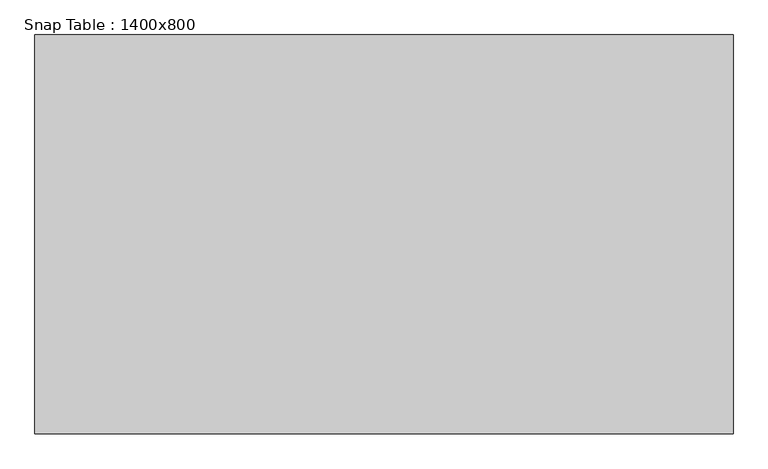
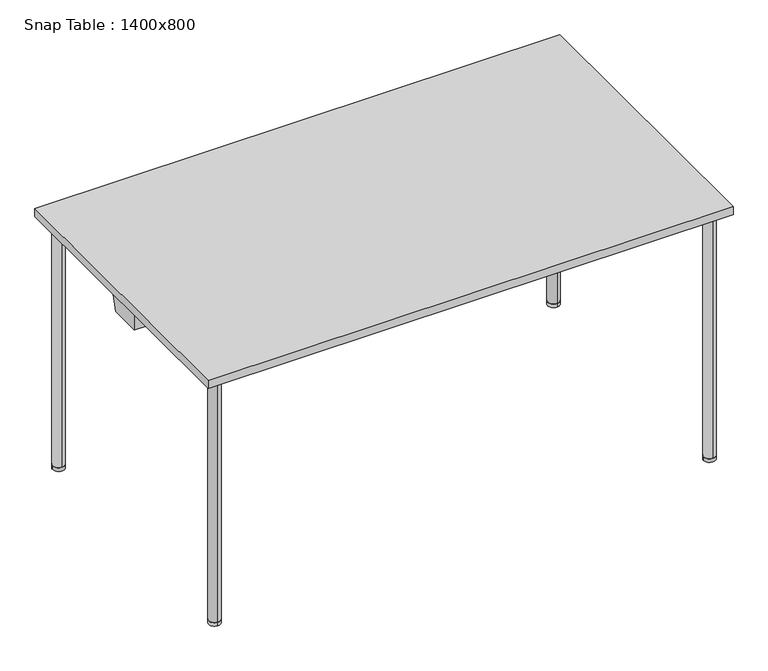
"""IFC4 building model written with IfcOpenShell, lengths in millimetres: furniture geometry, Snap Table : 1400x800."""

from ifc_helpers import new_model, si_unit, point, frame, frame_2d, origin, origin_with_axes, place, context, project, spatial, polyline, circle_curve, ellipse_curve, trimmed, segment, composite_curve, outline, extrude, faceted_brep, source, transform, mapped, element, save
from ifc_brep_helpers import plane_surface, cylinder_surface, revolved_surface, advanced_brep


def snap_table_1400x800_de1adabc(model_context):
    return source(origin(), model_context, "Body", "SolidModel", [
        extrude(outline(composite_curve([segment(trimmed(circle_curve(frame_2d((660.0, -360.0)), 16.0), [point((676.0, -360.0))], [point((644.0, -360.0))], False, "CARTESIAN"), True, "CONTINUOUS"), segment(trimmed(circle_curve(frame_2d((660.0, -360.0)), 16.0), [point((644.0, -360.0))], [point((676.0, -360.0))], False, "CARTESIAN"), True, "CONTINUOUS")], self_intersect=False)), origin_with_axes(), (0.0, 0.0, 1.0), 10.0),
        extrude(outline(composite_curve([segment(trimmed(circle_curve(frame_2d((660.0, 360.0)), 16.0), [point((660.0, 344.0))], [point((660.0, 376.0))], False, "CARTESIAN"), True, "CONTINUOUS"), segment(trimmed(circle_curve(frame_2d((660.0, 360.0)), 16.0), [point((660.0, 376.0))], [point((660.0, 344.0))], False, "CARTESIAN"), True, "CONTINUOUS")], self_intersect=False)), origin_with_axes(), (0.0, 0.0, 1.0), 10.0),
        advanced_brep(
        [(660.0, -376.0, 10.0), (660.0, -344.0, 10.0), (660.0, -376.0, 689.0), (660.0, -344.0, 657.0), (660.0, 376.0, 689.0), (660.0, 344.0, 657.0), (660.0, 376.0, 10.0), (660.0, 344.0, 10.0)],
        [
            (0, 1, circle_curve(frame((660.0, -360.0, 10.0), z_axis=(0.0, 0.0, -1.0), x_axis=(0.0, 1.0, 0.0)), 16.0)),
            (1, 0, circle_curve(frame((660.0, -360.0, 10.0), z_axis=(0.0, 0.0, -1.0), x_axis=(0.0, 1.0, 0.0)), 16.0)),
            (0, 2),
            (2, 3, ellipse_curve(frame((660.0, -360.0, 673.0), z_axis=(0.0, -0.7071067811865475, -0.7071067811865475), x_axis=(0.0, 0.7071067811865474, -0.7071067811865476)), 22.627417, 16.0)),
            (3, 1),
            (3, 2, ellipse_curve(frame((660.0, -360.0, 673.0), z_axis=(0.0, -0.7071067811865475, -0.7071067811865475), x_axis=(0.0, 0.7071067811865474, -0.7071067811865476)), 22.627417, 16.0)),
            (2, 4),
            (4, 5, ellipse_curve(frame((660.0, 360.0, 673.0), z_axis=(0.0, -0.7071067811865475, 0.7071067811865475), x_axis=(0.0, -0.7071067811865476, -0.7071067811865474)), 22.627417, 16.0)),
            (5, 3),
            (5, 4, ellipse_curve(frame((660.0, 360.0, 673.0), z_axis=(0.0, -0.7071067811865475, 0.7071067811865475), x_axis=(0.0, -0.7071067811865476, -0.7071067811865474)), 22.627417, 16.0)),
            (6, 7, circle_curve(frame((660.0, 360.0, 10.0), z_axis=(0.0, 0.0, -1.0), x_axis=(0.0, -1.0, 0.0)), 16.0)),
            (7, 6, circle_curve(frame((660.0, 360.0, 10.0), z_axis=(0.0, 0.0, -1.0), x_axis=(0.0, -1.0, 0.0)), 16.0)),
            (4, 6),
            (7, 5),
        ],
        [
            plane_surface(frame((660.0, -360.0, 10.0), z_axis=(0.0, 0.0, -1.0), x_axis=(-1.0, 0.0, 0.0))),
            cylinder_surface(frame((660.0, -360.0, 10.0), z_axis=(0.0, 0.0, -1.0), x_axis=(0.0, 1.0, 0.0)), 16.0),
            cylinder_surface(frame((660.0, -360.0, 673.0), z_axis=(0.0, -1.0, 0.0), x_axis=(0.0, 0.0, -1.0)), 16.0),
            plane_surface(frame((660.0, 360.0, 10.0), z_axis=(0.0, 0.0, -1.0), x_axis=(-1.0, 0.0, 0.0))),
            cylinder_surface(frame((660.0, 360.0, 673.0), z_axis=(0.0, 0.0, 1.0), x_axis=(0.0, -1.0, 0.0)), 16.0),
        ],
        [
            (0, [[1, 2]]),
            (1, [[-1, 3, 4, 5]]),
            (1, [[-2, -5, 6, -3]]),
            (2, [[-4, 7, 8, 9]]),
            (2, [[-6, -9, 10, -7]]),
            (3, [[11, 12]]),
            (4, [[-8, 13, -12, 14]]),
            (4, [[-10, -14, -11, -13]]),
        ],
    ),
        extrude(outline(composite_curve([segment(trimmed(circle_curve(frame_2d((-660.0470276, 360.0)), 16.0), [point((-676.0470276, 360.0))], [point((-644.0470276, 360.0))], False, "CARTESIAN"), True, "CONTINUOUS"), segment(trimmed(circle_curve(frame_2d((-660.0470276, 360.0)), 16.0), [point((-644.0470276, 360.0))], [point((-676.0470276, 360.0))], False, "CARTESIAN"), True, "CONTINUOUS")], self_intersect=False)), origin_with_axes(), (0.0, 0.0, 1.0), 10.0),
        extrude(outline(composite_curve([segment(trimmed(circle_curve(frame_2d((-660.0470276, -360.0)), 16.0), [point((-660.0470276, -344.0))], [point((-660.0470276, -376.0))], False, "CARTESIAN"), True, "CONTINUOUS"), segment(trimmed(circle_curve(frame_2d((-660.0470276, -360.0)), 16.0), [point((-660.0470276, -376.0))], [point((-660.0470276, -344.0))], False, "CARTESIAN"), True, "CONTINUOUS")], self_intersect=False)), origin_with_axes(), (0.0, 0.0, 1.0), 10.0),
        advanced_brep(
        [(-660.0470276, 376.0, 10.0), (-660.0470276, 344.0, 10.0), (-660.0470276, 376.0, 689.0), (-660.0470276, 344.0, 657.0), (-660.0470276, -376.0, 689.0), (-660.0470276, -344.0, 657.0), (-660.0470276, -376.0, 10.0), (-660.0470276, -344.0, 10.0)],
        [
            (0, 1, circle_curve(frame((-660.0470276, 360.0, 10.0), z_axis=(0.0, 0.0, -1.0), x_axis=(0.0, -1.0, 0.0)), 16.0)),
            (1, 0, circle_curve(frame((-660.0470276, 360.0, 10.0), z_axis=(0.0, 0.0, -1.0), x_axis=(0.0, -1.0, 0.0)), 16.0)),
            (0, 2),
            (2, 3, ellipse_curve(frame((-660.0470276, 360.0, 673.0), z_axis=(0.0, 0.7071067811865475, -0.7071067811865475), x_axis=(0.0, -0.7071067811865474, -0.7071067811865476)), 22.627417, 16.0)),
            (3, 1),
            (3, 2, ellipse_curve(frame((-660.0470276, 360.0, 673.0), z_axis=(0.0, 0.7071067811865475, -0.7071067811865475), x_axis=(0.0, -0.7071067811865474, -0.7071067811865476)), 22.627417, 16.0)),
            (2, 4),
            (4, 5, ellipse_curve(frame((-660.0470276, -360.0, 673.0), z_axis=(0.0, 0.7071067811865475, 0.7071067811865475), x_axis=(0.0, 0.7071067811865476, -0.7071067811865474)), 22.627417, 16.0)),
            (5, 3),
            (5, 4, ellipse_curve(frame((-660.0470276, -360.0, 673.0), z_axis=(0.0, 0.7071067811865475, 0.7071067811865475), x_axis=(0.0, 0.7071067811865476, -0.7071067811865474)), 22.627417, 16.0)),
            (6, 7, circle_curve(frame((-660.0470276, -360.0, 10.0), z_axis=(0.0, 0.0, -1.0), x_axis=(0.0, 1.0, 0.0)), 16.0)),
            (7, 6, circle_curve(frame((-660.0470276, -360.0, 10.0), z_axis=(0.0, 0.0, -1.0), x_axis=(0.0, 1.0, 0.0)), 16.0)),
            (4, 6),
            (7, 5),
        ],
        [
            plane_surface(frame((-660.0470276, 360.0, 10.0), z_axis=(0.0, 0.0, -1.0), x_axis=(1.0, 0.0, 0.0))),
            cylinder_surface(frame((-660.0470276, 360.0, 10.0), z_axis=(0.0, 0.0, -1.0), x_axis=(0.0, -1.0, 0.0)), 16.0),
            cylinder_surface(frame((-660.0470276, 360.0, 673.0), z_axis=(0.0, 1.0, 0.0), x_axis=(0.0, 0.0, -1.0)), 16.0),
            plane_surface(frame((-660.0470276, -360.0, 10.0), z_axis=(0.0, 0.0, -1.0), x_axis=(1.0, 0.0, 0.0))),
            cylinder_surface(frame((-660.0470276, -360.0, 673.0), z_axis=(0.0, 0.0, 1.0), x_axis=(0.0, 1.0, 0.0)), 16.0),
        ],
        [
            (0, [[1, 2]]),
            (1, [[-1, 3, 4, 5]]),
            (1, [[-2, -5, 6, -3]]),
            (2, [[-4, 7, 8, 9]]),
            (2, [[-6, -9, 10, -7]]),
            (3, [[11, 12]]),
            (4, [[-8, 13, -12, 14]]),
            (4, [[-10, -14, -11, -13]]),
        ],
    ),
        extrude(outline(polyline([(700.0, 400.0), (700.0, -400.0), (-700.0, -400.0), (-700.0, 400.0), (700.0, 400.0)])), frame((0.0, 0.0, 698.0), z_axis=(0.0, 0.0, 1.0), x_axis=(1.0, 0.0, 0.0)), (0.0, 0.0, 1.0), 22.0),
        advanced_brep(
        [(-690.8110657, 42.2236058, 643.0), (-657.6910354, 44.5767873, 643.0), (-640.5708933, 36.0824003, 643.0), (640.5710292, 36.0824678, 643.0), (657.6910354, 44.5767873, 643.0), (690.8110657, 42.2236058, 643.0), (690.8110657, -42.2236058, 643.0), (657.6044607, -44.2417031, 643.0), (640.4018781, -36.0497649, 643.0), (-640.4020196, -36.0498323, 643.0), (-657.6044607, -44.2417031, 643.0), (-690.8110657, -42.2236058, 643.0), (-694.8110657, 48.9570516, 698.0), (-694.8110657, -48.9934252, 698.0), (-656.225892, -51.3383995, 698.0), (-634.6205129, -41.049832, 698.0), (634.6203726, -41.0497652, 698.0), (656.225892, -51.3383995, 698.0), (694.8110657, -48.9934252, 698.0), (694.8110657, 48.9570516, 698.0), (656.286594, 51.6942192, 698.0), (634.8989768, 41.0824675, 698.0), (-634.8988421, 41.0824006, 698.0), (-656.286594, 51.6942192, 698.0), (-657.2475737, -46.0789118, 657.2385232), (-676.0, -46.9489596, 673.0), (-656.4614069, -50.125999, 688.6037931), (-644.0, -41.9922101, 673.0), (657.2475737, -46.0789118, 657.2385232), (644.0, -41.9922101, 673.0), (656.4614069, -50.125999, 688.6037931), (676.0, -46.9489596, 673.0), (657.3278029, 46.4175782, 657.2247231), (676.0, 47.1037405, 673.0), (656.5261576, 50.4801582, 688.618336), (644.0, 42.0461233, 673.0), (-657.3278029, 46.4175782, 657.2247231), (-644.0, 42.0461233, 673.0), (-656.5261576, 50.4801582, 688.618336), (-676.0, 47.1037405, 673.0)],
        [
            (0, 1),
            (1, 2),
            (2, 3),
            (3, 4),
            (4, 5),
            (5, 6),
            (6, 7),
            (7, 8),
            (8, 9),
            (9, 10),
            (10, 11),
            (11, 0),
            (12, 13),
            (13, 14),
            (14, 15),
            (15, 16),
            (16, 17),
            (17, 18),
            (18, 19),
            (19, 20),
            (20, 21),
            (21, 22),
            (22, 23),
            (23, 12),
            (11, 13),
            (12, 0),
            (10, 24),
            (24, 25, ellipse_curve(frame((-660.0, -47.9213432, 673.0), z_axis=(0.060176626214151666, 0.9901710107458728, 0.12625427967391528), x_axis=(0.426028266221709, -0.13986196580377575, 0.8938336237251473)), 16.1588249, 16.0)),
            (25, 26, ellipse_curve(frame((-660.0, -47.9213432, 673.0), z_axis=(0.060176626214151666, 0.9901710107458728, 0.12625427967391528), x_axis=(0.426028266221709, -0.13986196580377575, 0.8938336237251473)), 16.1588249, 16.0)),
            (26, 14),
            (9, 15),
            (26, 27, ellipse_curve(frame((-660.0, -49.6114737, 673.0), z_axis=(-0.4265030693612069, 0.8956310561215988, 0.12625427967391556), x_axis=(-0.8587935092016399, -0.44479771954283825, 0.25422174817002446)), 17.8644989, 16.0)),
            (27, 24, ellipse_curve(frame((-660.0, -49.6114737, 673.0), z_axis=(-0.4265030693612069, 0.8956310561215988, 0.12625427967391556), x_axis=(-0.8587935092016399, -0.44479771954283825, 0.25422174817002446)), 17.8644989, 16.0)),
            (8, 16),
            (7, 28),
            (28, 29, ellipse_curve(frame((660.0, -49.6114737, 673.0), z_axis=(0.4265030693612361, 0.8956310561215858, 0.1262542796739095), x_axis=(0.8587935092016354, -0.4447977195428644, 0.25422174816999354)), 17.8644989, 16.0)),
            (29, 30, ellipse_curve(frame((660.0, -49.6114737, 673.0), z_axis=(0.4265030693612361, 0.8956310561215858, 0.1262542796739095), x_axis=(0.8587935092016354, -0.4447977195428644, 0.25422174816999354)), 17.8644989, 16.0)),
            (30, 17),
            (6, 18),
            (30, 31, ellipse_curve(frame((660.0, -47.9213432, 673.0), z_axis=(-0.06017662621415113, 0.9901710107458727, 0.12625427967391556), x_axis=(-0.426028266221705, -0.1398619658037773, 0.8938336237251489)), 16.1588249, 16.0)),
            (31, 28, ellipse_curve(frame((660.0, -47.9213432, 673.0), z_axis=(-0.06017662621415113, 0.9901710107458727, 0.12625427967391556), x_axis=(-0.426028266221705, -0.1398619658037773, 0.8938336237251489)), 16.1588249, 16.0)),
            (5, 19),
            (4, 32),
            (32, 33, ellipse_curve(frame((660.0, 48.2405422, 673.0), z_axis=(-0.0703043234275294, -0.9895034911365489, 0.12625427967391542), x_axis=(0.4813983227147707, -0.14450896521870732, -0.8645072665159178)), 16.1697257, 16.0)),
            (33, 34, ellipse_curve(frame((660.0, 48.2405422, 673.0), z_axis=(-0.0703043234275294, -0.9895034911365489, 0.12625427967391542), x_axis=(0.4813983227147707, -0.14450896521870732, -0.8645072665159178)), 16.1697257, 16.0)),
            (34, 20),
            (3, 21),
            (34, 35, ellipse_curve(frame((660.0, 49.9847369, 673.0), z_axis=(0.4409053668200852, -0.8886294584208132, 0.12625427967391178), x_axis=(-0.854294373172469, -0.45862586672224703, -0.24462918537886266)), 18.005255, 16.0)),
            (35, 32, ellipse_curve(frame((660.0, 49.9847369, 673.0), z_axis=(0.4409053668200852, -0.8886294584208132, 0.12625427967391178), x_axis=(-0.854294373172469, -0.45862586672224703, -0.24462918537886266)), 18.005255, 16.0)),
            (2, 22),
            (1, 36),
            (36, 37, ellipse_curve(frame((-660.0, 49.9847369, 673.0), z_axis=(-0.44090536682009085, -0.8886294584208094, 0.12625427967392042), x_axis=(0.8542943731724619, -0.45862586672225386, -0.24462918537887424)), 18.005255, 16.0)),
            (37, 38, ellipse_curve(frame((-660.0, 49.9847369, 673.0), z_axis=(-0.44090536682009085, -0.8886294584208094, 0.12625427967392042), x_axis=(0.8542943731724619, -0.45862586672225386, -0.24462918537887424)), 18.005255, 16.0)),
            (38, 23),
            (38, 39, ellipse_curve(frame((-660.0, 48.2405422, 673.0), z_axis=(0.07030432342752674, -0.9895034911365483, 0.12625427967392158), x_axis=(-0.48139832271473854, -0.14450896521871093, -0.8645072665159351)), 16.1697257, 16.0)),
            (39, 36, ellipse_curve(frame((-660.0, 48.2405422, 673.0), z_axis=(0.07030432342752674, -0.9895034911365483, 0.12625427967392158), x_axis=(-0.48139832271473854, -0.14450896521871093, -0.8645072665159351)), 16.1697257, 16.0)),
            (35, 29),
            (31, 33),
            (39, 25),
            (27, 37),
        ],
        [
            plane_surface(frame((-5e-07, 0.0612866, 643.0), z_axis=(0.0, 0.0, -1.0), x_axis=(0.0, -1.0, 0.0))),
            plane_surface(frame((-5e-07, 0.0586803, 698.0), z_axis=(0.0, 0.0, 1.0), x_axis=(0.0, -1.0, 0.0))),
            plane_surface(frame((-694.8110657, -0.0181868, 698.0), z_axis=(-0.9973658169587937, 0.0, -0.07253569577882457), x_axis=(0.0, 1.0, 0.0))),
            plane_surface(frame((-675.5184789, -50.1659123, 698.0), z_axis=(-0.060176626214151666, -0.9901710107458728, -0.12625427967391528), x_axis=(-0.9981583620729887, 0.06066204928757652, 0.0))),
            plane_surface(frame((-645.4232025, -46.1941158, 698.0), z_axis=(0.4265030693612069, -0.8956310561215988, -0.12625427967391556), x_axis=(-0.9028557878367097, -0.4299435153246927, 0.0))),
            plane_surface(frame((-7.01e-05, -41.0497986, 698.0), z_axis=(5.2413477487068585e-08, -0.9958932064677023, -0.09053574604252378), x_axis=(-0.9999999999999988, -5.262961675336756e-08, 0.0))),
            plane_surface(frame((645.4231323, -46.1940824, 698.0), z_axis=(-0.4265030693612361, -0.8956310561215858, -0.1262542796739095), x_axis=(-0.9028557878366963, 0.42994351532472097, 0.0))),
            plane_surface(frame((675.5184789, -50.1659123, 698.0), z_axis=(0.060176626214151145, -0.9901710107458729, -0.1262542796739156), x_axis=(-0.9981583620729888, -0.060662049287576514, 0.0))),
            plane_surface(frame((694.8110657, -0.0181868, 698.0), z_axis=(0.997365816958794, 0.0, -0.07253569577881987), x_axis=(0.0, -1.0, 0.0))),
            plane_surface(frame((675.5488298, 50.3256354, 698.0), z_axis=(0.0703043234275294, 0.9895034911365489, -0.12625427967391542), x_axis=(0.9974854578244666, -0.07087144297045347, 0.0))),
            plane_surface(frame((645.5927854, 46.3883433, 698.0), z_axis=(-0.4409053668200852, 0.8886294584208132, -0.12625427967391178), x_axis=(0.8957977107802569, 0.44446199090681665, 0.0))),
            plane_surface(frame((6.73e-05, 41.082434, 698.0), z_axis=(-5.2413477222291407e-08, 0.9958932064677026, -0.09053574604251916), x_axis=(0.9999999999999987, 5.2629615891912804e-08, 0.0))),
            plane_surface(frame((-645.5927181, 46.3883099, 698.0), z_axis=(0.44090536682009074, 0.8886294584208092, -0.1262542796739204), x_axis=(0.8957977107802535, -0.4444619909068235, 0.0))),
            plane_surface(frame((-675.5488298, 50.3256354, 698.0), z_axis=(-0.07030432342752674, 0.9895034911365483, -0.12625427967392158), x_axis=(0.9974854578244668, 0.07087144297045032, 0.0))),
            revolved_surface(polyline([(676.0, -57.55756207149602, 673.0), (676.0, 58.242412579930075, 673.0)]), (660.0, 70.0, 673.0), (0.0, -1.0, 0.0)),
            revolved_surface(polyline([(-676.0, -57.55756207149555, 673.0), (-676.0, 58.242412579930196, 673.0)]), (-660.0, 70.0, 673.0), (0.0, -1.0, 0.0)),
        ],
        [
            (0, [[1, 2, 3, 4, 5, 6, 7, 8, 9, 10, 11, 12]]),
            (1, [[13, 14, 15, 16, 17, 18, 19, 20, 21, 22, 23, 24]]),
            (2, [[-12, 25, -13, 26]]),
            (3, [[-11, 27, 28, 29, 30, -14, -25]]),
            (4, [[-10, 31, -15, -30, 32, 33, -27]]),
            (5, [[-9, 34, -16, -31]]),
            (6, [[-8, 35, 36, 37, 38, -17, -34]]),
            (7, [[-7, 39, -18, -38, 40, 41, -35]]),
            (8, [[-6, 42, -19, -39]]),
            (9, [[-5, 43, 44, 45, 46, -20, -42]]),
            (10, [[-4, 47, -21, -46, 48, 49, -43]]),
            (11, [[-3, 50, -22, -47]]),
            (12, [[-2, 51, 52, 53, 54, -23, -50]]),
            (13, [[-1, -26, -24, -54, 55, 56, -51]]),
            (14, [[57, -36, -41, 58, -44, -49]]),
            (14, [[-57, -48, -45, -58, -40, -37]]),
            (15, [[59, -28, -33, 60, -52, -56]]),
            (15, [[-59, -55, -53, -60, -32, -29]]),
        ],
    ),
        faceted_brep([(630.1271057, 282.1409864, 643.0), (630.1271057, 327.0366315, 643.0), (641.3990784, 327.0366315, 643.0), (641.3990784, 282.1409864, 643.0), (626.2186584, 278.0138349, 688.0), (644.2631531, 278.0138349, 688.0), (644.2631531, 331.163783, 688.0), (626.2186584, 331.163783, 688.0)], [[[0, 1, 2, 3]], [[4, 5, 6, 7]], [[5, 4, 0, 3]], [[6, 5, 3, 2]], [[7, 6, 2, 1]], [[4, 7, 1, 0]]]),
        extrude(outline(polyline([(626.2186584, 331.163783), (677.86026, 331.163783), (677.86026, 278.0138349), (626.2186584, 278.0138349), (626.2186584, 331.163783)])), frame((0.0, 0.0, 688.0), z_axis=(0.0, 0.0, 1.0), x_axis=(1.0, 0.0, 0.0)), (0.0, 0.0, 1.0), 10.0),
        faceted_brep([(630.1271057, -282.1409864, 643.0), (641.3990784, -282.1409864, 643.0), (641.3990784, -327.0366315, 643.0), (630.1271057, -327.0366315, 643.0), (626.2186584, -278.0138349, 688.0), (626.2186584, -331.163783, 688.0), (644.2631531, -331.163783, 688.0), (644.2631531, -278.0138349, 688.0)], [[[0, 1, 2, 3]], [[4, 5, 6, 7]], [[4, 7, 1, 0]], [[7, 6, 2, 1]], [[6, 5, 3, 2]], [[5, 4, 0, 3]]]),
        extrude(outline(polyline([(626.2186584, -331.163783), (626.2186584, -278.0138349), (677.86026, -278.0138349), (677.86026, -331.163783), (626.2186584, -331.163783)])), frame((0.0, 0.0, 688.0), z_axis=(0.0, 0.0, 1.0), x_axis=(1.0, 0.0, 0.0)), (0.0, 0.0, 1.0), 10.0),
        faceted_brep([(-630.1271057, 282.1409864, 643.0), (-641.3990784, 282.1409864, 643.0), (-641.3990784, 327.0366315, 643.0), (-630.1271057, 327.0366315, 643.0), (-626.2186584, 278.0138349, 688.0), (-626.2186584, 331.163783, 688.0), (-644.2631531, 331.163783, 688.0), (-644.2631531, 278.0138349, 688.0)], [[[0, 1, 2, 3]], [[4, 5, 6, 7]], [[4, 7, 1, 0]], [[7, 6, 2, 1]], [[6, 5, 3, 2]], [[5, 4, 0, 3]]]),
        extrude(outline(polyline([(-626.2186584, 331.163783), (-626.2186584, 278.0138349), (-677.86026, 278.0138349), (-677.86026, 331.163783), (-626.2186584, 331.163783)])), frame((0.0, 0.0, 688.0), z_axis=(0.0, 0.0, 1.0), x_axis=(1.0, 0.0, 0.0)), (0.0, 0.0, 1.0), 10.0),
        faceted_brep([(-630.1271057, -282.1409864, 643.0), (-630.1271057, -327.0366315, 643.0), (-641.3990784, -327.0366315, 643.0), (-641.3990784, -282.1409864, 643.0), (-626.2186584, -278.0138349, 688.0), (-644.2631531, -278.0138349, 688.0), (-644.2631531, -331.163783, 688.0), (-626.2186584, -331.163783, 688.0)], [[[0, 1, 2, 3]], [[4, 5, 6, 7]], [[5, 4, 0, 3]], [[6, 5, 3, 2]], [[7, 6, 2, 1]], [[4, 7, 1, 0]]]),
        extrude(outline(polyline([(-626.2186584, -331.163783), (-677.86026, -331.163783), (-677.86026, -278.0138349), (-626.2186584, -278.0138349), (-626.2186584, -331.163783)])), frame((0.0, 0.0, 688.0), z_axis=(0.0, 0.0, 1.0), x_axis=(1.0, 0.0, 0.0)), (0.0, 0.0, 1.0), 10.0),
    ])


if __name__ == "__main__":
    model = new_model("IFC4")
    model_context = context("Model", 3, world=origin())
    ifc_project = project(units=[si_unit("LENGTHUNIT", "METRE", prefix="MILLI")], contexts=[model_context])
    site = spatial("IfcSite", under=ifc_project)
    building = spatial("IfcBuilding", under=site)
    placement = place(None, origin())
    snap_table_1400x800_shape = snap_table_1400x800_de1adabc(model_context)
    element("IfcFurniture", 1, ObjectType="Snap Table : 1400x800", at=placement, inside=building, context=model_context, shape_type="MappedRepresentation", body=[
        mapped(snap_table_1400x800_shape, transform((0.0, 0.0, 0.0), x_axis=(1.0, 0.0, 0.0), y_axis=(0.0, 1.0, 0.0), z_axis=(0.0, 0.0, 1.0))),
    ])
    save(model, "model.ifc")
